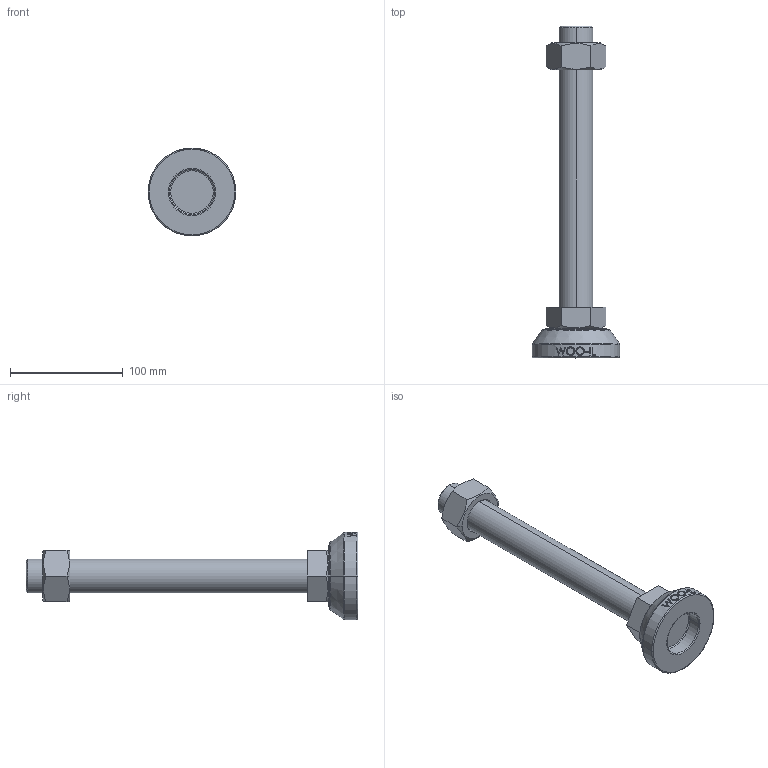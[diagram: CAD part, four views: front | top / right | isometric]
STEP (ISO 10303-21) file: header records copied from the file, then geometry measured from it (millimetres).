
FILE_DESCRIPTION (( 'STEP AP214' ), '1' );
FILE_NAME ('MF78-M30-250.step', '2021-02-03T08:23:05', ( '' ), ( '' ), 'SwSTEP 2.0', 'SolidWorks 2019', '' );
FILE_SCHEMA (( 'AUTOMOTIVE_DESIGN' ));
Length unit declared in the file: millimetre
Products named in the file (2): MF78-M30-250
Bounding box: 78 x 295 x 78 mm (x, y, z)
Volume: 331044.7 mm3; surface area: 53485.5 mm2
Topology: 3 solids, 3 shells, 106 faces, 243 edges, 154 vertices
Faces by surface type: plane 48, cylinder 18, bspline 16, cone 14, torus 10
Entity records: 4556 total; most frequent: CARTESIAN_POINT 2213, ORIENTED_EDGE 486, DIRECTION 439, EDGE_CURVE 243, AXIS2_PLACEMENT_3D 170, VERTEX_POINT 154, EDGE_LOOP 119, ADVANCED_FACE 106
